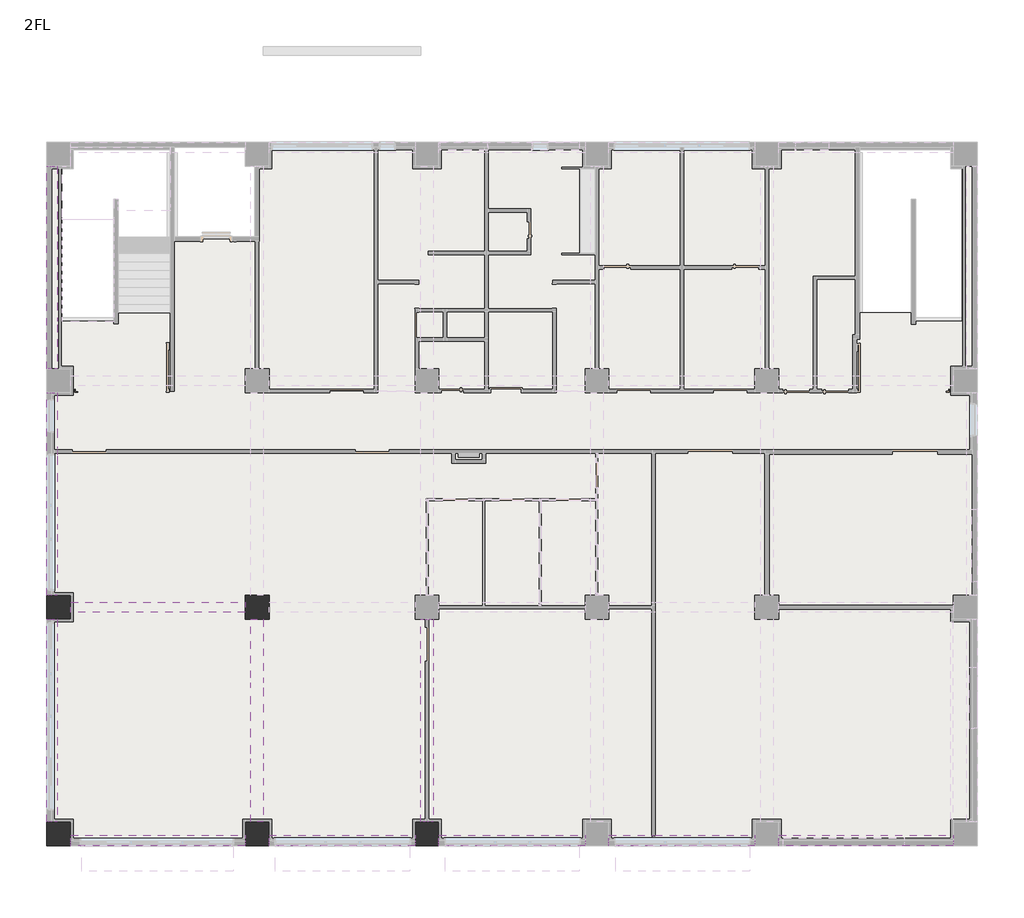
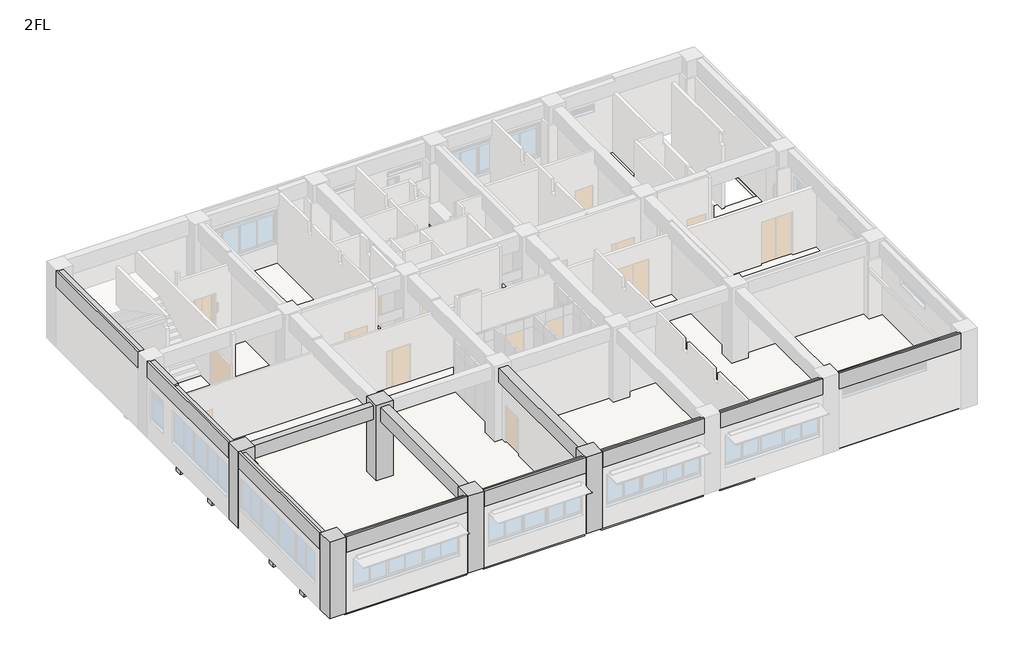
# One storey, part 5 of 7: 17 beams, 5 columns, 3 slabs.
"""IFC4 building model written with IfcOpenShell, lengths in millimetres."""

from ifc_helpers import new_model, si_unit, frame, origin, place, context, project, spatial, polyline, outline, extrude, faceted_brep, element, save

model = new_model("IFC4")

# Units and contexts
model_context = context("Model", 3, world=origin())
ifc_project = project(units=[si_unit("LENGTHUNIT", "METRE", prefix="MILLI")], contexts=[model_context])

# Site, building, storey
site = spatial("IfcSite", under=ifc_project)
building = spatial("IfcBuilding", under=site)
storey = spatial("IfcBuildingStorey", under=building, Name="2FL", Elevation=4100.0)

# Beams
placement = place(None, origin())
element("IfcBeam", 1, ObjectType="営_RC梁 : 2-RG1 350*850", at=placement, inside=storey, context=model_context, shape_type="Brep", body=[
    faceted_brep([(6580.0, -420.0, 8100.0), (6580.0, -420.0, 7250.0), (6580.0, -250.0, 7250.0), (6580.0, -50.0, 7250.0), (6580.0, -50.0, 7950.0), (6580.0, -325.0, 7950.0), (6580.0, -325.0, 8100.0), (420.0, -420.0, 8100.0), (420.0, -420.0, 7250.0), (420.0, -250.0, 7250.0), (420.0, -50.0, 7250.0), (420.0, -50.0, 7950.0), (420.0, -325.0, 8100.0), (420.0, -325.0, 7950.0)], [[[0, 1, 2, 3, 4, 5, 6]], [[1, 0, 7, 8]], [[3, 2, 1, 8, 9, 10]], [[3, 10, 11, 4]], [[7, 0, 6, 12]], [[8, 7, 12, 13, 11, 10, 9]], [[13, 5, 4, 11]], [[5, 13, 12, 6]]]),
])
element("IfcBeam", 2, ObjectType="営_RC梁 : 2-RG1 350*850", at=placement, inside=storey, context=model_context, shape_type="Brep", body=[
    faceted_brep([(12580.0, -420.0, 8100.0), (12580.0, -420.0, 7250.0), (12580.0, -250.0, 7250.0), (12580.0, -50.0, 7250.0), (12580.0, -50.0, 7950.0), (12580.0, -325.0, 7950.0), (12580.0, -325.0, 8100.0), (7420.0, -50.0, 7250.0), (7420.0, -250.0, 7250.0), (7420.0, -420.0, 7250.0), (7420.0, -420.0, 8100.0), (7420.0, -325.0, 8100.0), (7420.0, -325.0, 7950.0), (7420.0, -50.0, 7950.0)], [[[0, 1, 2, 3, 4, 5, 6]], [[7, 8, 9, 10, 11, 12, 13]], [[1, 0, 10, 9]], [[3, 2, 1, 9, 8, 7]], [[3, 7, 13, 4]], [[10, 0, 6, 11]], [[12, 5, 4, 13]], [[5, 12, 11, 6]]]),
])
element("IfcBeam", 3, ObjectType="営_RC梁 : 2-RG1 350*850", at=placement, inside=storey, context=model_context, shape_type="Brep", body=[
    faceted_brep([(18580.0, -420.0, 8100.0), (18580.0, -420.0, 7250.0), (18580.0, -250.0, 7250.0), (18580.0, -50.0, 7250.0), (18580.0, -50.0, 7950.0), (18580.0, -325.0, 7950.0), (18580.0, -325.0, 8100.0), (13420.0, -50.0, 7250.0), (13420.0, -250.0, 7250.0), (13420.0, -420.0, 7250.0), (13420.0, -420.0, 8100.0), (13420.0, -325.0, 8100.0), (13420.0, -325.0, 7950.0), (13420.0, -50.0, 7950.0)], [[[0, 1, 2, 3, 4, 5, 6]], [[7, 8, 9, 10, 11, 12, 13]], [[1, 0, 10, 9]], [[3, 2, 1, 9, 8, 7]], [[3, 7, 13, 4]], [[10, 0, 6, 11]], [[12, 5, 4, 13]], [[5, 12, 11, 6]]]),
])
element("IfcBeam", 4, ObjectType="営_RC梁 : 2-RG1 350*850", at=placement, inside=storey, context=model_context, shape_type="Brep", body=[
    faceted_brep([(24580.0, -420.0, 8100.0), (24580.0, -420.0, 7250.0), (24580.0, -250.0, 7250.0), (24580.0, -50.0, 7250.0), (24580.0, -50.0, 7950.0), (24580.0, -325.0, 7950.0), (24580.0, -325.0, 8100.0), (19420.0, -50.0, 7250.0), (19420.0, -250.0, 7250.0), (19420.0, -420.0, 7250.0), (19420.0, -420.0, 8100.0), (19420.0, -325.0, 8100.0), (19420.0, -325.0, 7950.0), (19420.0, -50.0, 7950.0), (20940.0, -50.0, 7250.0), (21060.0, -50.0, 7250.0), (20940.0, -50.0, 7950.0), (21060.0, -50.0, 7950.0)], [[[0, 1, 2, 3, 4, 5, 6]], [[7, 8, 9, 10, 11, 12, 13]], [[1, 0, 10, 9]], [[3, 2, 1, 9, 8, 7, 14, 15]], [[3, 15, 14, 7, 13, 16, 17, 4]], [[10, 0, 6, 11]], [[12, 5, 4, 17, 16, 13]], [[5, 12, 11, 6]]]),
])
element("IfcBeam", 5, ObjectType="営_RC梁 : 2-RG1 350*850", at=placement, inside=storey, context=model_context, shape_type="Brep", body=[
    faceted_brep([(31580.0, -420.0, 8100.0), (31580.0, -420.0, 7250.0), (31580.0, -250.0, 7250.0), (31580.0, -50.0, 7250.0), (31580.0, -50.0, 7950.0), (31580.0, -325.0, 7950.0), (31580.0, -325.0, 8100.0), (25420.0, -50.0, 7250.0), (25420.0, -250.0, 7250.0), (25420.0, -420.0, 7250.0), (25420.0, -420.0, 8100.0), (25420.0, -325.0, 8100.0), (25420.0, -325.0, 7950.0), (25420.0, -50.0, 7950.0)], [[[0, 1, 2, 3, 4, 5, 6]], [[7, 8, 9, 10, 11, 12, 13]], [[1, 0, 10, 9]], [[3, 2, 1, 9, 8, 7]], [[3, 7, 13, 4]], [[10, 0, 6, 11]], [[12, 5, 4, 13]], [[5, 12, 11, 6]]]),
])
element("IfcBeam", 6, ObjectType="営_RC梁 : 2-RG11 350*900", at=placement, inside=storey, context=model_context, shape_type="Brep", body=[
    faceted_brep([(-50.0, 420.0, 7200.0), (-50.0, 7580.0, 7200.0), (-50.0, 7580.0, 7950.0), (-50.0, 5505.0, 7950.0), (-50.0, 5155.0, 7950.0), (-50.0, 2835.0, 7950.0), (-50.0, 2485.0, 7950.0), (-50.0, 420.0, 7950.0), (-250.0, 420.0, 7200.0), (-420.0, 420.0, 7200.0), (-420.0, 7580.0, 7200.0), (-250.0, 7580.0, 7200.0), (-420.0, 420.0, 8100.0), (-420.0, 7580.0, 8100.0), (-335.0, 420.0, 8100.0), (-335.0, 7580.0, 8100.0), (-335.0, 420.0, 7950.0), (-335.0, 7580.0, 7950.0)], [[[0, 1, 2, 3, 4, 5, 6, 7]], [[0, 8, 9, 10, 11, 1]], [[9, 12, 13, 10]], [[13, 12, 14, 15]], [[9, 8, 0, 7, 16, 14, 12]], [[1, 11, 10, 13, 15, 17, 2]], [[17, 16, 7, 6, 5, 4, 3, 2]], [[16, 17, 15, 14]]]),
])
element("IfcBeam", 7, ObjectType="営_RC梁 : 2-RG11 350*900", at=placement, inside=storey, context=model_context, shape_type="Brep", body=[
    faceted_brep([(-50.0, 15580.0, 7200.0), (-250.0, 15580.0, 7200.0), (-420.0, 15580.0, 7200.0), (-420.0, 15580.0, 8100.0), (-325.0, 15580.0, 8100.0), (-325.0, 15580.0, 8040.0), (-250.0, 15580.0, 8040.0), (-50.0, 15580.0, 8040.0), (-420.0, 8420.0, 8100.0), (-420.0, 8420.0, 7200.0), (-250.0, 8420.0, 7200.0), (-50.0, 8420.0, 7200.0), (-50.0, 8420.0, 7950.0), (-335.0, 8420.0, 7950.0), (-335.0, 8420.0, 8100.0), (-50.0, 13440.0, 7200.0), (-50.0, 13560.0, 7200.0), (-50.0, 13675.0, 8040.0), (-50.0, 13500.0, 8040.0), (-50.0, 13500.0, 7950.0), (-50.0, 13325.0, 7950.0), (-50.0, 10925.0, 7950.0), (-50.0, 10575.0, 7950.0), (-335.0, 13500.0, 8100.0), (-325.0, 13500.0, 8100.0), (-335.0, 13500.0, 7950.0), (-250.0, 13500.0, 8040.0), (-325.0, 13500.0, 8040.0)], [[[0, 1, 2, 3, 4, 5, 6, 7]], [[8, 9, 10, 11, 12, 13, 14]], [[11, 15, 16, 0, 7, 17, 18, 19, 20, 21, 22, 12]], [[2, 1, 0, 16, 15, 11, 10, 9]], [[3, 2, 9, 8]], [[3, 8, 14, 23, 24, 4]], [[19, 25, 13, 12, 22, 21, 20]], [[25, 23, 14, 13]], [[23, 25, 19, 18, 26, 27, 24]], [[5, 27, 26, 18, 17, 7, 6]], [[27, 5, 4, 24]]]),
])
element("IfcBeam", 8, ObjectType="営_RC梁 : 2-RG11 350*900", at=placement, inside=storey, context=model_context, shape_type="Brep", body=[
    faceted_brep([(-50.0, 23580.0, 7200.0), (-250.0, 23580.0, 7200.0), (-420.0, 23580.0, 7200.0), (-420.0, 23580.0, 8100.0), (-325.0, 23580.0, 8100.0), (-325.0, 23580.0, 8040.0), (-250.0, 23580.0, 8040.0), (-50.0, 23580.0, 8040.0), (-420.0, 16420.0, 8100.0), (-420.0, 16420.0, 7200.0), (-250.0, 16420.0, 7200.0), (-50.0, 16420.0, 7200.0), (-50.0, 16420.0, 8040.0), (-250.0, 16420.0, 8040.0), (-325.0, 16420.0, 8040.0), (-325.0, 16420.0, 8100.0), (-50.0, 18225.0, 8040.0), (-50.0, 17975.0, 8040.0)], [[[0, 1, 2, 3, 4, 5, 6, 7]], [[8, 9, 10, 11, 12, 13, 14, 15]], [[11, 0, 7, 16, 17, 12]], [[2, 1, 0, 11, 10, 9]], [[3, 2, 9, 8]], [[3, 8, 15, 4]], [[5, 14, 13, 12, 17, 16, 7, 6]], [[14, 5, 4, 15]]]),
])
element("IfcBeam", 9, ObjectType="営_RC梁 : 2-RG2 350*850", at=placement, inside=storey, context=model_context, shape_type="SweptSolid", body=[
    extrude(outline(polyline([(6580.0, 8175.0), (6580.0, 7825.0), (420.0, 7825.0), (420.0, 8175.0), (6580.0, 8175.0)])), frame((0.0, 0.0, 7250.0), z_axis=(0.0, 0.0, 1.0), x_axis=(1.0, 0.0, 0.0)), (0.0, 0.0, 1.0), 700.0),
])
element("IfcBeam", 10, ObjectType="営_RC梁 : 2-4G12 450*900", at=placement, inside=storey, context=model_context, shape_type="Brep", body=[
    faceted_brep([(7225.0, 420.0, 7200.0), (7225.0, 7580.0, 7200.0), (7225.0, 7580.0, 7950.0), (7225.0, 5505.0, 7950.0), (7225.0, 5155.0, 7950.0), (7225.0, 2835.0, 7950.0), (7225.0, 2485.0, 7950.0), (7225.0, 420.0, 7950.0), (6775.0, 420.0, 7200.0), (6775.0, 7580.0, 7200.0), (6775.0, 420.0, 7950.0), (6775.0, 2485.0, 7950.0), (6775.0, 2835.0, 7950.0), (6775.0, 5155.0, 7950.0), (6775.0, 5505.0, 7950.0), (6775.0, 7580.0, 7950.0)], [[[0, 1, 2, 3, 4, 5, 6, 7]], [[0, 8, 9, 1]], [[9, 8, 10, 11, 12, 13, 14, 15]], [[8, 0, 7, 10]], [[1, 9, 15, 2]], [[7, 6, 5, 4, 3, 2, 15, 14, 13, 12, 11, 10]]]),
])
element("IfcBeam", 11, ObjectType="営_RC梁 : 2-4G12 450*900", at=placement, inside=storey, context=model_context, shape_type="Brep", body=[
    faceted_brep([(13225.0, 420.0, 7200.0), (13225.0, 7580.0, 7200.0), (13225.0, 7580.0, 7950.0), (13225.0, 5505.0, 7950.0), (13225.0, 5155.0, 7950.0), (13225.0, 2835.0, 7950.0), (13225.0, 2485.0, 7950.0), (13225.0, 420.0, 7950.0), (13060.0, 420.0, 7200.0), (12940.0, 420.0, 7200.0), (12775.0, 420.0, 7200.0), (12775.0, 7580.0, 7200.0), (12940.0, 7580.0, 7200.0), (13060.0, 7580.0, 7200.0), (12775.0, 420.0, 7950.0), (12775.0, 2485.0, 7950.0), (12775.0, 2835.0, 7950.0), (12775.0, 5155.0, 7950.0), (12775.0, 5505.0, 7950.0), (12775.0, 7580.0, 7950.0)], [[[0, 1, 2, 3, 4, 5, 6, 7]], [[0, 8, 9, 10, 11, 12, 13, 1]], [[11, 10, 14, 15, 16, 17, 18, 19]], [[10, 9, 8, 0, 7, 14]], [[1, 13, 12, 11, 19, 2]], [[7, 6, 5, 4, 3, 2, 19, 18, 17, 16, 15, 14]]]),
])
element("IfcBeam", 12, ObjectType="営_RC梁 : B1 350*750", at=placement, inside=storey, context=model_context, shape_type="SweptSolid", body=[
    extrude(outline(polyline([(7225.0, 5155.0), (7225.0, 5505.0), (12775.0, 5505.0), (12775.0, 5155.0), (7225.0, 5155.0)])), frame((0.0, 0.0, 3250.0), z_axis=(0.0, 0.0, 1.0), x_axis=(1.0, 0.0, 0.0)), (0.0, 0.0, 1.0), 600.0),
])
element("IfcBeam", 13, ObjectType="営_RC梁 : B1 350*750", at=placement, inside=storey, context=model_context, shape_type="SweptSolid", body=[
    extrude(outline(polyline([(7225.0, 2485.0), (7225.0, 2835.0), (12775.0, 2835.0), (12775.0, 2485.0), (7225.0, 2485.0)])), frame((0.0, 0.0, 3250.0), z_axis=(0.0, 0.0, 1.0), x_axis=(1.0, 0.0, 0.0)), (0.0, 0.0, 1.0), 600.0),
])
element("IfcBeam", 14, ObjectType="営_RC梁 : B1 350*750", at=placement, inside=storey, context=model_context, shape_type="SweptSolid", body=[
    extrude(outline(polyline([(-50.0, 5155.0), (-50.0, 5505.0), (6775.0, 5505.0), (6775.0, 5155.0), (-50.0, 5155.0)])), frame((0.0, 0.0, 3250.0), z_axis=(0.0, 0.0, 1.0), x_axis=(1.0, 0.0, 0.0)), (0.0, 0.0, 1.0), 600.0),
])
element("IfcBeam", 15, ObjectType="営_RC梁 : B1 350*750", at=placement, inside=storey, context=model_context, shape_type="SweptSolid", body=[
    extrude(outline(polyline([(-50.0, 2485.0), (-50.0, 2835.0), (6775.0, 2835.0), (6775.0, 2485.0), (-50.0, 2485.0)])), frame((0.0, 0.0, 3250.0), z_axis=(0.0, 0.0, 1.0), x_axis=(1.0, 0.0, 0.0)), (0.0, 0.0, 1.0), 600.0),
])
element("IfcBeam", 16, ObjectType="営_RC梁 : B1 350*750", at=placement, inside=storey, context=model_context, shape_type="SweptSolid", body=[
    extrude(outline(polyline([(-50.0, 10575.0), (-50.0, 10925.0), (6775.0, 10925.0), (6775.0, 10575.0), (-50.0, 10575.0)])), frame((0.0, 0.0, 3250.0), z_axis=(0.0, 0.0, 1.0), x_axis=(1.0, 0.0, 0.0)), (0.0, 0.0, 1.0), 600.0),
])
element("IfcBeam", 17, ObjectType="営_RC梁 : B1 350*750", at=placement, inside=storey, context=model_context, shape_type="Brep", body=[
    faceted_brep([(-50.0, 13325.0, 3250.0), (6775.0, 13325.0, 3250.0), (6775.0, 13325.0, 3850.0), (-50.0, 13325.0, 3850.0), (-50.0, 13440.0, 3250.0), (-50.0, 13560.0, 3250.0), (-50.0, 13675.0, 3250.0), (6775.0, 13675.0, 3250.0), (6775.0, 13560.0, 3250.0), (6775.0, 13440.0, 3250.0), (-50.0, 13675.0, 3940.0), (6775.0, 13675.0, 3940.0), (-50.0, 13500.0, 3850.0), (-50.0, 13500.0, 3940.0), (6775.0, 13500.0, 3940.0), (6775.0, 13500.0, 3850.0)], [[[0, 1, 2, 3]], [[0, 4, 5, 6, 7, 8, 9, 1]], [[7, 6, 10, 11]], [[6, 5, 4, 0, 3, 12, 13, 10]], [[1, 9, 8, 7, 11, 14, 15, 2]], [[15, 12, 3, 2]], [[12, 15, 14, 13]], [[11, 10, 13, 14]]]),
])

# Columns
element("IfcColumn", 18, ObjectType="営_RC柱_角 : 800*800", at=placement, inside=storey, context=model_context, shape_type="Brep", body=[
    faceted_brep([(7420.0, 420.0, 4000.0), (7420.0, -250.0, 4000.0), (7420.0, -420.0, 4000.0), (6580.0, -420.0, 4000.0), (6580.0, -250.0, 4000.0), (6580.0, 420.0, 4000.0), (7420.0, 420.0, 8100.0), (7420.0, -325.0, 8100.0), (7420.0, -420.0, 8100.0), (7420.0, -420.0, 7250.0), (7420.0, 420.0, 4080.0), (7420.0, 420.0, 4090.0), (7420.0, 420.0, 7950.0), (6580.0, -420.0, 8100.0), (6580.0, -420.0, 7250.0), (6580.0, -325.0, 8100.0), (6580.0, 420.0, 8100.0), (6580.0, 420.0, 7950.0), (6580.0, 420.0, 4090.0), (6580.0, 420.0, 4080.0)], [[[0, 1, 2, 3, 4, 5]], [[6, 7, 8, 9, 2, 1, 0, 10, 11, 12]], [[8, 13, 14, 3, 2, 9]], [[13, 15, 16, 17, 18, 19, 5, 4, 3, 14]], [[16, 6, 12, 11, 10, 0, 5, 19, 18, 17]], [[6, 16, 15, 13, 8, 7]]]),
])
element("IfcColumn", 19, ObjectType="営_RC柱_角 : 800*800", at=placement, inside=storey, context=model_context, shape_type="Brep", body=[
    faceted_brep([(13420.0, 420.0, 4000.0), (13420.0, -250.0, 4000.0), (13420.0, -420.0, 4000.0), (12580.0, -420.0, 4000.0), (12580.0, -250.0, 4000.0), (12580.0, 420.0, 4000.0), (13420.0, 420.0, 8100.0), (13420.0, -325.0, 8100.0), (13420.0, -420.0, 8100.0), (13420.0, -420.0, 7250.0), (13420.0, 420.0, 4080.0), (13420.0, 420.0, 4090.0), (13420.0, 420.0, 7950.0), (12580.0, -420.0, 8100.0), (12580.0, -420.0, 7250.0), (12580.0, -325.0, 8100.0), (12580.0, 420.0, 8100.0), (12580.0, 420.0, 7950.0), (12580.0, 420.0, 4090.0), (12580.0, 420.0, 4080.0)], [[[0, 1, 2, 3, 4, 5]], [[6, 7, 8, 9, 2, 1, 0, 10, 11, 12]], [[8, 13, 14, 3, 2, 9]], [[13, 15, 16, 17, 18, 19, 5, 4, 3, 14]], [[16, 6, 12, 11, 10, 0, 5, 19, 18, 17]], [[6, 16, 15, 13, 8, 7]]]),
])
element("IfcColumn", 20, ObjectType="営_RC柱_角 : 800*800", at=placement, inside=storey, context=model_context, shape_type="Brep", body=[
    faceted_brep([(420.0, 420.0, 4000.0), (420.0, -250.0, 4000.0), (420.0, -420.0, 4000.0), (-420.0, -420.0, 4000.0), (-420.0, 420.0, 4000.0), (-250.0, 420.0, 4000.0), (420.0, 420.0, 8100.0), (420.0, -325.0, 8100.0), (420.0, -420.0, 8100.0), (420.0, -420.0, 7250.0), (420.0, 420.0, 4080.0), (420.0, 420.0, 4090.0), (420.0, 420.0, 7950.0), (-420.0, -420.0, 8100.0), (-420.0, 420.0, 8100.0), (-420.0, 420.0, 7200.0), (-335.0, 420.0, 8100.0)], [[[0, 1, 2, 3, 4, 5]], [[6, 7, 8, 9, 2, 1, 0, 10, 11, 12]], [[8, 13, 3, 2, 9]], [[13, 14, 15, 4, 3]], [[14, 16, 6, 12, 11, 10, 0, 5, 4, 15]], [[6, 16, 14, 13, 8, 7]]]),
])
element("IfcColumn", 21, ObjectType="営_RC柱_角 : 800*800", at=placement, inside=storey, context=model_context, shape_type="Brep", body=[
    faceted_brep([(7420.0, 8420.0, 4000.0), (7420.0, 7580.0, 4000.0), (6580.0, 7580.0, 4000.0), (6580.0, 8420.0, 4000.0), (7420.0, 8420.0, 8100.0), (7420.0, 7580.0, 8100.0), (7420.0, 7580.0, 7950.0), (7420.0, 7580.0, 4090.0), (7420.0, 7580.0, 4080.0), (7420.0, 8420.0, 4080.0), (7420.0, 8420.0, 4090.0), (7420.0, 8420.0, 7950.0), (6580.0, 7580.0, 8100.0), (6580.0, 7580.0, 7950.0), (6580.0, 7580.0, 4090.0), (6580.0, 7580.0, 4080.0), (6580.0, 8420.0, 8100.0), (6580.0, 8420.0, 7950.0), (6580.0, 8420.0, 4090.0), (6580.0, 8420.0, 4080.0)], [[[0, 1, 2, 3]], [[4, 5, 6, 7, 8, 1, 0, 9, 10, 11]], [[5, 12, 13, 14, 15, 2, 1, 8, 7, 6]], [[12, 16, 17, 18, 19, 3, 2, 15, 14, 13]], [[16, 4, 11, 10, 9, 0, 3, 19, 18, 17]], [[4, 16, 12, 5]]]),
])
element("IfcColumn", 22, ObjectType="営_RC柱_角 : 800*800", at=placement, inside=storey, context=model_context, shape_type="Brep", body=[
    faceted_brep([(420.0, 8420.0, 4000.0), (420.0, 7580.0, 4000.0), (-250.0, 7580.0, 4000.0), (-420.0, 7580.0, 4000.0), (-420.0, 8420.0, 4000.0), (-250.0, 8420.0, 4000.0), (420.0, 8420.0, 8100.0), (420.0, 7580.0, 8100.0), (420.0, 7580.0, 7950.0), (420.0, 7580.0, 4090.0), (420.0, 7580.0, 4080.0), (420.0, 8420.0, 4080.0), (420.0, 8420.0, 4090.0), (420.0, 8420.0, 7950.0), (-335.0, 7580.0, 8100.0), (-420.0, 7580.0, 8100.0), (-420.0, 7580.0, 7200.0), (-420.0, 8420.0, 8100.0), (-420.0, 8420.0, 7200.0), (-335.0, 8420.0, 8100.0)], [[[0, 1, 2, 3, 4, 5]], [[6, 7, 8, 9, 10, 1, 0, 11, 12, 13]], [[7, 14, 15, 16, 3, 2, 1, 10, 9, 8]], [[15, 17, 18, 4, 3, 16]], [[17, 19, 6, 13, 12, 11, 0, 5, 4, 18]], [[6, 19, 17, 15, 14, 7]]]),
])

# Slabs
element("IfcSlab", 23, ObjectType="(内床)仕上げ", at=placement, inside=storey, context=model_context, shape_type="SweptSolid", body=[
    extrude(outline(polyline([(-250.0, 13500.0), (20940.0, 13500.0), (20940.0, -250.0), (19420.0, -250.0), (19420.0, 420.0), (18580.0, 420.0), (18580.0, -250.0), (13420.0, -250.0), (13420.0, 420.0), (12580.0, 420.0), (12580.0, -250.0), (7420.0, -250.0), (7420.0, 420.0), (6580.0, 420.0), (6580.0, -250.0), (420.0, -250.0), (420.0, 420.0), (-250.0, 420.0), (-250.0, 7580.0), (420.0, 7580.0), (420.0, 8420.0), (-250.0, 8420.0), (-250.0, 13500.0)]), holes=[polyline([(7420.0, 7580.0), (7420.0, 8420.0), (6580.0, 8420.0), (6580.0, 7580.0), (7420.0, 7580.0)]), polyline([(13420.0, 7580.0), (13420.0, 8420.0), (12580.0, 8420.0), (12580.0, 7580.0), (13420.0, 7580.0)]), polyline([(19420.0, 7580.0), (19420.0, 8420.0), (18580.0, 8420.0), (18580.0, 7580.0), (19420.0, 7580.0)])]), frame((0.0, 0.0, 4080.0), z_axis=(0.0, 0.0, 1.0), x_axis=(1.0, 0.0, 0.0)), (0.0, 0.0, 1.0), 10.0),
    extrude(outline(polyline([(11200.0, 24250.0), (11200.0, 15640.0), (7420.0, 15640.0), (7420.0, 16420.0), (7000.0, 16420.0), (7000.0, 23580.0), (7420.0, 23580.0), (7420.0, 24250.0), (11200.0, 24250.0)])), frame((0.0, 0.0, 4080.0), z_axis=(0.0, 0.0, 1.0), x_axis=(1.0, 0.0, 0.0)), (0.0, 0.0, 1.0), 10.0),
])
element("IfcSlab", 24, ObjectType="(RC)150", at=placement, inside=storey, context=model_context, shape_type="Brep", body=[
    faceted_brep([(11200.0, 15640.0, 3850.0), (7420.0, 15640.0, 3850.0), (7420.0, 15825.0, 3850.0), (7420.0, 16175.0, 3850.0), (7420.0, 16420.0, 3850.0), (7225.0, 16420.0, 3850.0), (7000.0, 16420.0, 3850.0), (7000.0, 23580.0, 3850.0), (7225.0, 23580.0, 3850.0), (7420.0, 23580.0, 3850.0), (7420.0, 24050.0, 3850.0), (7420.0, 24250.0, 3850.0), (11200.0, 24250.0, 3850.0), (11200.0, 24050.0, 3850.0), (11200.0, 21515.0, 3850.0), (11200.0, 21165.0, 3850.0), (11200.0, 18845.0, 3850.0), (11200.0, 18495.0, 3850.0), (11200.0, 16175.0, 3850.0), (11200.0, 15825.0, 3850.0), (7420.0, 15640.0, 4000.0), (11200.0, 15640.0, 4000.0), (11200.0, 24250.0, 4000.0), (7420.0, 24250.0, 4000.0), (7420.0, 23580.0, 4000.0), (7000.0, 23580.0, 4000.0), (7000.0, 21000.0, 4000.0), (7000.0, 16420.0, 4000.0), (7420.0, 16420.0, 4000.0), (11200.0, 15640.0, 3940.0), (11200.0, 24250.0, 3940.0), (7420.0, 15640.0, 3940.0), (7000.0, 16420.0, 3940.0)], [[[0, 1, 2, 3, 4, 5, 6, 7, 8, 9, 10, 11, 12, 13, 14, 15, 16, 17, 18, 19]], [[20, 21, 22, 23, 24, 25, 26, 27, 28]], [[21, 29, 0, 19, 18, 17, 16, 15, 14, 13, 12, 30, 22]], [[0, 29, 21, 20, 31, 1]], [[6, 32, 27, 26, 25, 7]], [[28, 4, 3, 2, 1, 31, 20]], [[4, 28, 27, 32, 6, 5]], [[9, 24, 23, 11, 10]], [[24, 9, 8, 7, 25]], [[12, 11, 23, 22, 30]]]),
    faceted_brep([(21200.0, 13500.0, 3850.0), (21200.0, 13325.0, 3850.0), (21200.0, 10925.0, 3850.0), (21200.0, 10575.0, 3850.0), (21200.0, 8175.0, 3850.0), (21200.0, 7825.0, 3850.0), (21200.0, 5505.0, 3850.0), (21200.0, 5155.0, 3850.0), (21200.0, 2835.0, 3850.0), (21200.0, 2485.0, 3850.0), (21200.0, -50.0, 3850.0), (21200.0, -325.0, 3850.0), (19420.0, -325.0, 3850.0), (19420.0, -50.0, 3850.0), (19420.0, 420.0, 3850.0), (19225.0, 420.0, 3850.0), (18775.0, 420.0, 3850.0), (18580.0, 420.0, 3850.0), (18580.0, -50.0, 3850.0), (18580.0, -325.0, 3850.0), (13420.0, -325.0, 3850.0), (13420.0, -50.0, 3850.0), (13420.0, 420.0, 3850.0), (13225.0, 420.0, 3850.0), (12775.0, 420.0, 3850.0), (12580.0, 420.0, 3850.0), (12580.0, -50.0, 3850.0), (12580.0, -325.0, 3850.0), (7420.0, -325.0, 3850.0), (7420.0, -50.0, 3850.0), (7420.0, 420.0, 3850.0), (7225.0, 420.0, 3850.0), (6775.0, 420.0, 3850.0), (6580.0, 420.0, 3850.0), (6580.0, -50.0, 3850.0), (6580.0, -325.0, 3850.0), (420.0, -325.0, 3850.0), (420.0, -50.0, 3850.0), (420.0, 420.0, 3850.0), (-50.0, 420.0, 3850.0), (-250.0, 420.0, 3850.0), (-250.0, 7580.0, 3850.0), (-50.0, 7580.0, 3850.0), (420.0, 7580.0, 3850.0), (420.0, 7825.0, 3850.0), (420.0, 8175.0, 3850.0), (420.0, 8420.0, 3850.0), (-50.0, 8420.0, 3850.0), (-250.0, 8420.0, 3850.0), (-250.0, 13500.0, 3850.0), (-50.0, 13500.0, 3850.0), (6775.0, 13500.0, 3850.0), (7225.0, 13500.0, 3850.0), (12775.0, 13500.0, 3850.0), (13225.0, 13500.0, 3850.0), (18775.0, 13500.0, 3850.0), (19225.0, 13500.0, 3850.0), (7420.0, 7580.0, 3850.0), (7420.0, 7825.0, 3850.0), (7420.0, 8175.0, 3850.0), (7420.0, 8420.0, 3850.0), (7225.0, 8420.0, 3850.0), (6775.0, 8420.0, 3850.0), (6580.0, 8420.0, 3850.0), (6580.0, 8175.0, 3850.0), (6580.0, 7825.0, 3850.0), (6580.0, 7580.0, 3850.0), (6775.0, 7580.0, 3850.0), (7225.0, 7580.0, 3850.0), (13420.0, 7580.0, 3850.0), (13420.0, 7825.0, 3850.0), (13420.0, 8175.0, 3850.0), (13420.0, 8420.0, 3850.0), (13225.0, 8420.0, 3850.0), (12775.0, 8420.0, 3850.0), (12580.0, 8420.0, 3850.0), (12580.0, 8175.0, 3850.0), (12580.0, 7825.0, 3850.0), (12580.0, 7580.0, 3850.0), (12775.0, 7580.0, 3850.0), (13225.0, 7580.0, 3850.0), (19420.0, 7580.0, 3850.0), (19420.0, 7825.0, 3850.0), (19420.0, 8175.0, 3850.0), (19420.0, 8420.0, 3850.0), (19225.0, 8420.0, 3850.0), (18775.0, 8420.0, 3850.0), (18580.0, 8420.0, 3850.0), (18580.0, 8175.0, 3850.0), (18580.0, 7825.0, 3850.0), (18580.0, 7580.0, 3850.0), (18775.0, 7580.0, 3850.0), (19225.0, 7580.0, 3850.0), (21200.0, -325.0, 4000.0), (21200.0, -250.0, 4000.0), (21200.0, 13500.0, 4000.0), (20950.0, 13500.0, 4000.0), (-250.0, 13500.0, 4000.0), (-250.0, 8420.0, 4000.0), (420.0, 8420.0, 4000.0), (420.0, 7580.0, 4000.0), (-250.0, 7580.0, 4000.0), (-250.0, 420.0, 4000.0), (420.0, 420.0, 4000.0), (420.0, -325.0, 4000.0), (6580.0, -325.0, 4000.0), (6580.0, 420.0, 4000.0), (7420.0, 420.0, 4000.0), (7420.0, -325.0, 4000.0), (12580.0, -325.0, 4000.0), (12580.0, 420.0, 4000.0), (13420.0, 420.0, 4000.0), (13420.0, -325.0, 4000.0), (18580.0, -325.0, 4000.0), (18580.0, 420.0, 4000.0), (19420.0, 420.0, 4000.0), (19420.0, -325.0, 4000.0), (7420.0, 8420.0, 4000.0), (7420.0, 7580.0, 4000.0), (6580.0, 7580.0, 4000.0), (6580.0, 8420.0, 4000.0), (13420.0, 8420.0, 4000.0), (13420.0, 7580.0, 4000.0), (12580.0, 7580.0, 4000.0), (12580.0, 8420.0, 4000.0), (19420.0, 8420.0, 4000.0), (19420.0, 7580.0, 4000.0), (18580.0, 7580.0, 4000.0), (18580.0, 8420.0, 4000.0), (21200.0, 13500.0, 3940.0), (-250.0, 13500.0, 3940.0)], [[[0, 1, 2, 3, 4, 5, 6, 7, 8, 9, 10, 11, 12, 13, 14, 15, 16, 17, 18, 19, 20, 21, 22, 23, 24, 25, 26, 27, 28, 29, 30, 31, 32, 33, 34, 35, 36, 37, 38, 39, 40, 41, 42, 43, 44, 45, 46, 47, 48, 49, 50, 51, 52, 53, 54, 55, 56], [57, 58, 59, 60, 61, 62, 63, 64, 65, 66, 67, 68], [69, 70, 71, 72, 73, 74, 75, 76, 77, 78, 79, 80], [81, 82, 83, 84, 85, 86, 87, 88, 89, 90, 91, 92]], [[93, 94, 95, 96, 97, 98, 99, 100, 101, 102, 103, 104, 105, 106, 107, 108, 109, 110, 111, 112, 113, 114, 115, 116], [117, 118, 119, 120], [121, 122, 123, 124], [125, 126, 127, 128]], [[35, 105, 104, 36]], [[108, 28, 27, 109]], [[112, 20, 19, 113]], [[11, 93, 116, 12]], [[95, 129, 0, 56, 55, 54, 53, 52, 51, 50, 49, 130, 97, 96]], [[11, 10, 9, 8, 7, 6, 5, 4, 3, 2, 1, 0, 129, 95, 94, 93]], [[107, 30, 29, 28, 108]], [[33, 106, 105, 35, 34]], [[106, 33, 32, 31, 30, 107]], [[111, 22, 21, 20, 112]], [[25, 110, 109, 27, 26]], [[110, 25, 24, 23, 22, 111]], [[115, 14, 13, 12, 116]], [[17, 114, 113, 19, 18]], [[114, 17, 16, 15, 14, 115]], [[103, 38, 37, 36, 104]], [[38, 103, 102, 40, 39]], [[57, 118, 117, 60, 59, 58]], [[118, 57, 68, 67, 66, 119]], [[119, 66, 65, 64, 63, 120]], [[120, 63, 62, 61, 60, 117]], [[69, 122, 121, 72, 71, 70]], [[122, 69, 80, 79, 78, 123]], [[123, 78, 77, 76, 75, 124]], [[124, 75, 74, 73, 72, 121]], [[81, 126, 125, 84, 83, 82]], [[126, 81, 92, 91, 90, 127]], [[127, 90, 89, 88, 87, 128]], [[128, 87, 86, 85, 84, 125]], [[43, 100, 99, 46, 45, 44]], [[100, 43, 42, 41, 101]], [[46, 99, 98, 48, 47]], [[49, 48, 98, 97, 130]], [[40, 102, 101, 41]]]),
])
element("IfcSlab", 25, ObjectType="(RC)150", at=placement, inside=storey, context=model_context, shape_type="Brep", body=[
    faceted_brep([(4000.0, 21000.0, 3940.0), (4175.0, 21000.0, 3940.0), (4306.3, 21000.0, 3940.0), (6775.0, 21000.0, 3940.0), (7000.0, 21000.0, 3940.0), (7000.0, 16420.0, 3940.0), (6775.0, 16420.0, 3940.0), (6580.0, 16420.0, 3940.0), (6580.0, 16175.0, 3940.0), (6580.0, 15825.0, 3940.0), (6580.0, 15580.0, 3940.0), (6775.0, 15580.0, 3940.0), (7225.0, 15580.0, 3940.0), (7420.0, 15580.0, 3940.0), (7420.0, 15640.0, 3940.0), (11200.0, 15640.0, 3940.0), (11200.0, 15825.0, 3940.0), (11200.0, 16175.0, 3940.0), (11200.0, 18495.0, 3940.0), (11200.0, 18845.0, 3940.0), (11200.0, 21165.0, 3940.0), (11200.0, 21515.0, 3940.0), (11200.0, 24050.0, 3940.0), (11200.0, 24250.0, 3940.0), (12580.0, 24250.0, 3940.0), (12580.0, 24050.0, 3940.0), (12580.0, 23580.0, 3940.0), (12775.0, 23580.0, 3940.0), (13225.0, 23580.0, 3940.0), (13420.0, 23580.0, 3940.0), (13420.0, 24050.0, 3940.0), (13420.0, 24250.0, 3940.0), (18580.0, 24250.0, 3940.0), (18580.0, 24050.0, 3940.0), (18580.0, 23580.0, 3940.0), (18775.0, 23580.0, 3940.0), (19225.0, 23580.0, 3940.0), (19420.0, 23580.0, 3940.0), (19420.0, 24050.0, 3940.0), (19420.0, 24250.0, 3940.0), (24580.0, 24250.0, 3940.0), (24580.0, 24050.0, 3940.0), (24580.0, 23580.0, 3940.0), (24775.0, 23580.0, 3940.0), (25225.0, 23580.0, 3940.0), (25420.0, 23580.0, 3940.0), (25420.0, 24050.0, 3940.0), (25420.0, 24250.0, 3940.0), (28200.0, 24250.0, 3940.0), (28200.0, 24050.0, 3940.0), (28200.0, 18400.0, 3940.0), (30105.0, 18400.0, 3940.0), (30105.0, 18005.0, 3940.0), (30255.0, 18005.0, 3940.0), (30255.0, 18100.0, 3940.0), (31900.0, 18100.0, 3940.0), (31900.0, 23580.0, 3940.0), (32050.0, 23580.0, 3940.0), (32250.0, 23580.0, 3940.0), (32250.0, 16420.0, 3940.0), (32050.0, 16420.0, 3940.0), (31580.0, 16420.0, 3940.0), (31580.0, 16175.0, 3940.0), (31580.0, 15825.0, 3940.0), (31580.0, 15580.0, 3940.0), (32050.0, 15580.0, 3940.0), (32250.0, 15580.0, 3940.0), (32250.0, 8420.0, 3940.0), (32050.0, 8420.0, 3940.0), (31580.0, 8420.0, 3940.0), (31580.0, 8175.0, 3940.0), (31580.0, 7825.0, 3940.0), (31580.0, 7580.0, 3940.0), (32050.0, 7580.0, 3940.0), (32250.0, 7580.0, 3940.0), (32250.0, 420.0, 3940.0), (32050.0, 420.0, 3940.0), (31580.0, 420.0, 3940.0), (31580.0, -50.0, 3940.0), (31580.0, -250.0, 3940.0), (25420.0, -250.0, 3940.0), (25420.0, -50.0, 3940.0), (25420.0, 420.0, 3940.0), (25225.0, 420.0, 3940.0), (24775.0, 420.0, 3940.0), (24580.0, 420.0, 3940.0), (24580.0, -50.0, 3940.0), (24580.0, -250.0, 3940.0), (21200.0, -250.0, 3940.0), (21200.0, -50.0, 3940.0), (21200.0, 2485.0, 3940.0), (21200.0, 2835.0, 3940.0), (21200.0, 5155.0, 3940.0), (21200.0, 5505.0, 3940.0), (21200.0, 7825.0, 3940.0), (21200.0, 8175.0, 3940.0), (21200.0, 10575.0, 3940.0), (21200.0, 10925.0, 3940.0), (21200.0, 13325.0, 3940.0), (21200.0, 13500.0, 3940.0), (19225.0, 13500.0, 3940.0), (18775.0, 13500.0, 3940.0), (13225.0, 13500.0, 3940.0), (12775.0, 13500.0, 3940.0), (7225.0, 13500.0, 3940.0), (6775.0, 13500.0, 3940.0), (-50.0, 13500.0, 3940.0), (-250.0, 13500.0, 3940.0), (-250.0, 15580.0, 3940.0), (-50.0, 15580.0, 3940.0), (420.0, 15580.0, 3940.0), (420.0, 15825.0, 3940.0), (420.0, 16175.0, 3940.0), (420.0, 16420.0, 3940.0), (-50.0, 16420.0, 3940.0), (-250.0, 16420.0, 3940.0), (-250.0, 23580.0, 3940.0), (-50.0, 23580.0, 3940.0), (100.0, 23580.0, 3940.0), (100.0, 18225.0, 3940.0), (100.0, 18100.0, 3940.0), (1945.0, 18100.0, 3940.0), (1945.0, 18005.0, 3940.0), (2095.0, 18005.0, 3940.0), (2095.0, 18225.0, 3940.0), (2095.0, 18400.0, 3940.0), (3825.0, 18400.0, 3940.0), (4000.0, 18400.0, 3940.0), (25420.0, 7580.0, 3940.0), (25420.0, 7825.0, 3940.0), (25420.0, 8175.0, 3940.0), (25420.0, 8420.0, 3940.0), (25225.0, 8420.0, 3940.0), (24775.0, 8420.0, 3940.0), (24580.0, 8420.0, 3940.0), (24580.0, 8175.0, 3940.0), (24580.0, 7825.0, 3940.0), (24580.0, 7580.0, 3940.0), (24775.0, 7580.0, 3940.0), (25225.0, 7580.0, 3940.0), (13420.0, 15580.0, 3940.0), (13420.0, 15825.0, 3940.0), (13420.0, 16175.0, 3940.0), (13420.0, 16420.0, 3940.0), (13225.0, 16420.0, 3940.0), (12775.0, 16420.0, 3940.0), (12580.0, 16420.0, 3940.0), (12580.0, 16175.0, 3940.0), (12580.0, 15825.0, 3940.0), (12580.0, 15580.0, 3940.0), (12775.0, 15580.0, 3940.0), (13225.0, 15580.0, 3940.0), (19420.0, 15580.0, 3940.0), (19420.0, 15825.0, 3940.0), (19420.0, 16175.0, 3940.0), (19420.0, 16420.0, 3940.0), (19225.0, 16420.0, 3940.0), (18775.0, 16420.0, 3940.0), (18580.0, 16420.0, 3940.0), (18580.0, 16175.0, 3940.0), (18580.0, 15825.0, 3940.0), (18580.0, 15580.0, 3940.0), (18775.0, 15580.0, 3940.0), (19225.0, 15580.0, 3940.0), (25420.0, 15580.0, 3940.0), (25420.0, 15825.0, 3940.0), (25420.0, 16175.0, 3940.0), (25420.0, 16420.0, 3940.0), (25225.0, 16420.0, 3940.0), (24775.0, 16420.0, 3940.0), (24580.0, 16420.0, 3940.0), (24580.0, 16175.0, 3940.0), (24580.0, 15825.0, 3940.0), (24580.0, 15580.0, 3940.0), (24775.0, 15580.0, 3940.0), (25225.0, 15580.0, 3940.0), (-325.0, 13500.0, 4090.0), (20950.0, 13500.0, 4090.0), (20950.0, -250.0, 4090.0), (24580.0, -250.0, 4090.0), (24580.0, 420.0, 4090.0), (25420.0, 420.0, 4090.0), (25420.0, -250.0, 4090.0), (31580.0, -250.0, 4090.0), (31580.0, 420.0, 4090.0), (32250.0, 420.0, 4090.0), (32325.0, 420.0, 4090.0), (32325.0, 7580.0, 4090.0), (32250.0, 7580.0, 4090.0), (31580.0, 7580.0, 4090.0), (31580.0, 8420.0, 4090.0), (32250.0, 8420.0, 4090.0), (32325.0, 8420.0, 4090.0), (32325.0, 15580.0, 4090.0), (32250.0, 15580.0, 4090.0), (31580.0, 15580.0, 4090.0), (31580.0, 16420.0, 4090.0), (32250.0, 16420.0, 4090.0), (32325.0, 16420.0, 4090.0), (32325.0, 16669.8819845, 4090.0), (32325.0, 23580.0, 4090.0), (32250.0, 23580.0, 4090.0), (31900.0, 23580.0, 4090.0), (31900.0, 18100.0, 4090.0), (30255.0, 18100.0, 4090.0), (30255.0, 18005.0, 4090.0), (30105.0, 18005.0, 4090.0), (30105.0, 18400.0, 4090.0), (28200.0, 18400.0, 4090.0), (28200.0, 24250.0, 4090.0), (28200.0, 24335.0, 4090.0), (25420.0, 24335.0, 4090.0), (25420.0, 24250.0, 4090.0), (25420.0, 23580.0, 4090.0), (24580.0, 23580.0, 4090.0), (24580.0, 24250.0, 4090.0), (24580.0, 24335.0, 4090.0), (19420.0, 24335.0, 4090.0), (19420.0, 24250.0, 4090.0), (19420.0, 23580.0, 4090.0), (18580.0, 23580.0, 4090.0), (18580.0, 24250.0, 4090.0), (18580.0, 24335.0, 4090.0), (13420.0, 24335.0, 4090.0), (13420.0, 24250.0, 4090.0), (13420.0, 23580.0, 4090.0), (12580.0, 23580.0, 4090.0), (12580.0, 24250.0, 4090.0), (12580.0, 24335.0, 4090.0), (11200.0, 24335.0, 4090.0), (11200.0, 24250.0, 4090.0), (11200.0, 15640.0, 4090.0), (7420.0, 15640.0, 4090.0), (7420.0, 15580.0, 4090.0), (6580.0, 15580.0, 4090.0), (6580.0, 16420.0, 4090.0), (7000.0, 16420.0, 4090.0), (7000.0, 21000.0, 4090.0), (4000.0, 21000.0, 4090.0), (4000.0, 18400.0, 4090.0), (2095.0, 18400.0, 4090.0), (2095.0, 18005.0, 4090.0), (1945.0, 18005.0, 4090.0), (1945.0, 18100.0, 4090.0), (100.0, 18100.0, 4090.0), (100.0, 23580.0, 4090.0), (-325.0, 23580.0, 4090.0), (-325.0, 16420.0, 4090.0), (420.0, 16420.0, 4090.0), (420.0, 15580.0, 4090.0), (-325.0, 15580.0, 4090.0), (25420.0, 8420.0, 4090.0), (25420.0, 7580.0, 4090.0), (24580.0, 7580.0, 4090.0), (24580.0, 8420.0, 4090.0), (13420.0, 16420.0, 4090.0), (13420.0, 15580.0, 4090.0), (12580.0, 15580.0, 4090.0), (12580.0, 16420.0, 4090.0), (19420.0, 16420.0, 4090.0), (19420.0, 15580.0, 4090.0), (18580.0, 15580.0, 4090.0), (18580.0, 16420.0, 4090.0), (25420.0, 16420.0, 4090.0), (25420.0, 15580.0, 4090.0), (24580.0, 15580.0, 4090.0), (24580.0, 16420.0, 4090.0), (20950.0, -250.0, 4000.0), (21200.0, -250.0, 4000.0), (24580.0, -250.0, 4000.0), (32325.0, 16669.8819845, 4000.0), (32325.0, 16420.0, 4000.0), (32325.0, 420.0, 4000.0), (32325.0, 7580.0, 4000.0), (32325.0, 8420.0, 4000.0), (32325.0, 15580.0, 4000.0), (-325.0, 13500.0, 4000.0), (-250.0, 13500.0, 4000.0), (21200.0, 13500.0, 4000.0), (20950.0, 13500.0, 4000.0), (11200.0, 24335.0, 4000.0), (11200.0, 24250.0, 4000.0), (11200.0, 15640.0, 4000.0), (28200.0, 24250.0, 4000.0), (28200.0, 24335.0, 4000.0), (25420.0, 24335.0, 4000.0), (12580.0, 24335.0, 4000.0), (13420.0, 24335.0, 4000.0), (18580.0, 24335.0, 4000.0), (19420.0, 24335.0, 4000.0), (24580.0, 24335.0, 4000.0), (32325.0, 23580.0, 4000.0), (4000.0, 21000.0, 4000.0), (7000.0, 21000.0, 4000.0), (7000.0, 16420.0, 4000.0), (7420.0, 15640.0, 4000.0), (-325.0, 23580.0, 4000.0), (-325.0, 16420.0, 4000.0), (-325.0, 15580.0, 4000.0), (4000.0, 18400.0, 4000.0), (25420.0, 420.0, 4000.0), (24580.0, 420.0, 4000.0), (31580.0, 420.0, 4000.0), (32250.0, 420.0, 4000.0), (25420.0, 7580.0, 4000.0), (25420.0, 8420.0, 4000.0), (24580.0, 7580.0, 4000.0), (24580.0, 8420.0, 4000.0), (32250.0, 7580.0, 4000.0), (31580.0, 7580.0, 4000.0), (31580.0, 8420.0, 4000.0), (32250.0, 8420.0, 4000.0), (7420.0, 15580.0, 4000.0), (6580.0, 15580.0, 4000.0), (6580.0, 16420.0, 4000.0), (13420.0, 15580.0, 4000.0), (13420.0, 16420.0, 4000.0), (12580.0, 15580.0, 4000.0), (12580.0, 16420.0, 4000.0), (19420.0, 15580.0, 4000.0), (19420.0, 16420.0, 4000.0), (18580.0, 15580.0, 4000.0), (18580.0, 16420.0, 4000.0), (25420.0, 15580.0, 4000.0), (25420.0, 16420.0, 4000.0), (24580.0, 15580.0, 4000.0), (24580.0, 16420.0, 4000.0), (32250.0, 15580.0, 4000.0), (31580.0, 15580.0, 4000.0), (31580.0, 16420.0, 4000.0), (32250.0, 16420.0, 4000.0), (420.0, 15580.0, 4000.0), (420.0, 16420.0, 4000.0), (-250.0, 15580.0, 4000.0), (-250.0, 16420.0, 4000.0), (13420.0, 24250.0, 4000.0), (13420.0, 23580.0, 4000.0), (12580.0, 23580.0, 4000.0), (12580.0, 24250.0, 4000.0), (19420.0, 24250.0, 4000.0), (19420.0, 23580.0, 4000.0), (18580.0, 23580.0, 4000.0), (18580.0, 24250.0, 4000.0), (25420.0, 24250.0, 4000.0), (25420.0, 23580.0, 4000.0), (24580.0, 23580.0, 4000.0), (24580.0, 24250.0, 4000.0), (-250.0, 23580.0, 4000.0), (32250.0, 23580.0, 4000.0), (100.0, 18100.0, 4000.0), (1945.0, 18100.0, 4000.0), (1945.0, 18005.0, 4000.0), (2095.0, 18005.0, 4000.0)], [[[0, 1, 2, 3, 4, 5, 6, 7, 8, 9, 10, 11, 12, 13, 14, 15, 16, 17, 18, 19, 20, 21, 22, 23, 24, 25, 26, 27, 28, 29, 30, 31, 32, 33, 34, 35, 36, 37, 38, 39, 40, 41, 42, 43, 44, 45, 46, 47, 48, 49, 50, 51, 52, 53, 54, 55, 56, 57, 58, 59, 60, 61, 62, 63, 64, 65, 66, 67, 68, 69, 70, 71, 72, 73, 74, 75, 76, 77, 78, 79, 80, 81, 82, 83, 84, 85, 86, 87, 88, 89, 90, 91, 92, 93, 94, 95, 96, 97, 98, 99, 100, 101, 102, 103, 104, 105, 106, 107, 108, 109, 110, 111, 112, 113, 114, 115, 116, 117, 118, 119, 120, 121, 122, 123, 124, 125, 126, 127], [128, 129, 130, 131, 132, 133, 134, 135, 136, 137, 138, 139], [140, 141, 142, 143, 144, 145, 146, 147, 148, 149, 150, 151], [152, 153, 154, 155, 156, 157, 158, 159, 160, 161, 162, 163], [164, 165, 166, 167, 168, 169, 170, 171, 172, 173, 174, 175]], [[176, 177, 178, 179, 180, 181, 182, 183, 184, 185, 186, 187, 188, 189, 190, 191, 192, 193, 194, 195, 196, 197, 198, 199, 200, 201, 202, 203, 204, 205, 206, 207, 208, 209, 210, 211, 212, 213, 214, 215, 216, 217, 218, 219, 220, 221, 222, 223, 224, 225, 226, 227, 228, 229, 230, 231, 232, 233, 234, 235, 236, 237, 238, 239, 240, 241, 242, 243, 244, 245, 246, 247, 248, 249, 250], [251, 252, 253, 254], [255, 256, 257, 258], [259, 260, 261, 262], [263, 264, 265, 266]], [[267, 268, 88, 87, 269, 179, 178]], [[80, 79, 183, 182]], [[270, 199, 198, 271]], [[186, 272, 273, 187]], [[192, 274, 275, 193]], [[177, 176, 276, 277, 107, 106, 105, 104, 103, 102, 101, 100, 99, 278, 279]], [[178, 177, 279, 267]], [[231, 230, 229, 280, 281, 23, 22, 21, 20, 19, 18, 17, 16, 15, 282]], [[210, 209, 208, 50, 49, 48, 283, 284]], [[210, 284, 285, 211]], [[280, 229, 228, 286]], [[287, 223, 222, 288]], [[289, 217, 216, 290]], [[200, 199, 270, 291]], [[4, 3, 2, 1, 0, 292, 238, 237, 293]], [[5, 4, 293, 237, 236, 294]], [[15, 14, 295, 232, 231, 282]], [[246, 296, 297, 247]], [[276, 176, 250, 298]], [[0, 127, 299, 239, 238, 292]], [[82, 81, 80, 182, 181, 300]], [[87, 86, 85, 301, 180, 179, 269]], [[85, 84, 83, 82, 300, 181, 180, 301]], [[79, 78, 77, 302, 184, 183]], [[75, 303, 272, 186, 185, 184, 302, 77, 76]], [[131, 130, 129, 128, 304, 252, 251, 305]], [[128, 139, 138, 137, 306, 253, 252, 304]], [[137, 136, 135, 134, 307, 254, 253, 306]], [[134, 133, 132, 131, 305, 251, 254, 307]], [[308, 74, 73, 72, 309, 189, 188, 187, 273]], [[72, 71, 70, 69, 310, 190, 189, 309]], [[67, 311, 274, 192, 191, 190, 310, 69, 68]], [[14, 13, 312, 233, 232, 295]], [[13, 12, 11, 10, 313, 234, 233, 312]], [[10, 9, 8, 7, 314, 235, 234, 313]], [[7, 6, 5, 294, 236, 235, 314]], [[143, 142, 141, 140, 315, 256, 255, 316]], [[140, 151, 150, 149, 317, 257, 256, 315]], [[149, 148, 147, 146, 318, 258, 257, 317]], [[146, 145, 144, 143, 316, 255, 258, 318]], [[155, 154, 153, 152, 319, 260, 259, 320]], [[152, 163, 162, 161, 321, 261, 260, 319]], [[161, 160, 159, 158, 322, 262, 261, 321]], [[158, 157, 156, 155, 320, 259, 262, 322]], [[167, 166, 165, 164, 323, 264, 263, 324]], [[164, 175, 174, 173, 325, 265, 264, 323]], [[173, 172, 171, 170, 326, 266, 265, 325]], [[170, 169, 168, 167, 324, 263, 266, 326]], [[327, 66, 65, 64, 328, 195, 194, 193, 275]], [[64, 63, 62, 61, 329, 196, 195, 328]], [[59, 330, 271, 198, 197, 196, 329, 61, 60]], [[113, 112, 111, 110, 331, 249, 248, 332]], [[108, 333, 298, 250, 249, 331, 110, 109]], [[334, 115, 114, 113, 332, 248, 247, 297]], [[335, 31, 30, 29, 336, 225, 224, 223, 287]], [[29, 28, 27, 26, 337, 226, 225, 336]], [[26, 25, 24, 338, 286, 228, 227, 226, 337]], [[339, 39, 38, 37, 340, 219, 218, 217, 289]], [[37, 36, 35, 34, 341, 220, 219, 340]], [[32, 342, 288, 222, 221, 220, 341, 34, 33]], [[213, 212, 211, 285, 343, 47, 46, 45, 344]], [[213, 344, 45, 44, 43, 42, 345, 214]], [[214, 345, 42, 41, 40, 346, 290, 216, 215]], [[333, 108, 107, 277]], [[115, 334, 347, 116]], [[31, 335, 342, 32]], [[39, 339, 346, 40]], [[47, 343, 283, 48]], [[24, 23, 281, 338]], [[311, 67, 66, 327]], [[330, 59, 58, 348]], [[303, 75, 74, 308]], [[267, 279, 278, 268]], [[278, 99, 98, 97, 96, 95, 94, 93, 92, 91, 90, 89, 88, 268]], [[303, 308, 273, 272]], [[311, 327, 275, 274]], [[291, 270, 271, 330, 348]], [[277, 276, 298, 333]], [[347, 334, 297, 296]], [[342, 335, 287, 288]], [[346, 339, 289, 290]], [[338, 281, 280, 286]], [[283, 343, 285, 284]], [[246, 245, 118, 117, 116, 347, 296]], [[120, 119, 118, 245, 244, 349]], [[121, 120, 349, 244, 243, 350]], [[122, 121, 350, 243, 242, 351]], [[123, 122, 351, 242, 241, 352]], [[125, 124, 123, 352, 241, 240]], [[127, 126, 125, 240, 239, 299]], [[51, 50, 208, 207]], [[52, 51, 207, 206]], [[53, 52, 206, 205]], [[54, 53, 205, 204]], [[55, 54, 204, 203]], [[56, 55, 203, 202]], [[202, 201, 200, 291, 348, 58, 57, 56]]]),
])

save(model, "model.ifc")
